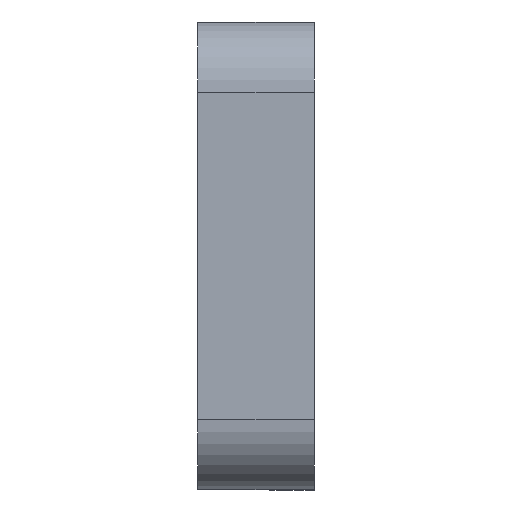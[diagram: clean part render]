
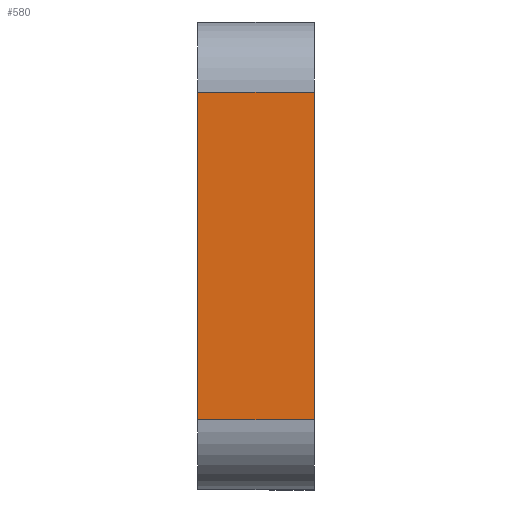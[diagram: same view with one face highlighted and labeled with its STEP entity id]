
A CAD part, front view. The second image highlights one B-rep face of the part: STEP entity #580.
In plain terms, the highlighted planar face has unit normal (0, -1, 0).
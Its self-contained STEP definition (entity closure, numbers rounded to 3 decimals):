
#491=CARTESIAN_POINT('Vertex',(5.,0.,3.)) ;
#494=CARTESIAN_POINT('Line Origine',(2.5,0.,3.)) ;
#498=CARTESIAN_POINT('Vertex',(0.,0.,3.)) ;
#550=CARTESIAN_POINT('Axis2P3D Location',(0.,0.,20.)) ;
#555=CARTESIAN_POINT('Line Origine',(0.,0.,10.)) ;
#559=CARTESIAN_POINT('Vertex',(0.,0.,17.)) ;
#562=CARTESIAN_POINT('Line Origine',(5.,0.,10.)) ;
#566=CARTESIAN_POINT('Vertex',(5.,0.,17.)) ;
#569=CARTESIAN_POINT('Line Origine',(2.5,0.,17.)) ;
#495=DIRECTION('Vector Direction',(1.,0.,0.)) ;
#551=DIRECTION('Axis2P3D Direction',(0.,-1.,0.)) ;
#552=DIRECTION('Axis2P3D XDirection',(0.,0.,-1.)) ;
#556=DIRECTION('Vector Direction',(0.,0.,-1.)) ;
#563=DIRECTION('Vector Direction',(0.,0.,-1.)) ;
#570=DIRECTION('Vector Direction',(1.,0.,0.)) ;
#553=AXIS2_PLACEMENT_3D('Plane Axis2P3D',#550,#551,#552) ;
#575=ORIENTED_EDGE('',*,*,#561,.T.) ;
#576=ORIENTED_EDGE('',*,*,#500,.T.) ;
#577=ORIENTED_EDGE('',*,*,#568,.F.) ;
#578=ORIENTED_EDGE('',*,*,#573,.F.) ;
#496=VECTOR('Line Direction',#495,1.) ;
#557=VECTOR('Line Direction',#556,1.) ;
#564=VECTOR('Line Direction',#563,1.) ;
#571=VECTOR('Line Direction',#570,1.) ;
#580=ADVANCED_FACE('\X2\96F64EF651E04F554F53\X0\',(#579),#554,.T.) ;
#500=EDGE_CURVE('',#499,#492,#497,.T.) ;
#561=EDGE_CURVE('',#560,#499,#558,.T.) ;
#568=EDGE_CURVE('',#567,#492,#565,.T.) ;
#573=EDGE_CURVE('',#560,#567,#572,.T.) ;
#574=EDGE_LOOP('',(#575,#576,#577,#578)) ;
#579=FACE_OUTER_BOUND('',#574,.T.) ;
#497=LINE('Line',#494,#496) ;
#558=LINE('Line',#555,#557) ;
#565=LINE('Line',#562,#564) ;
#572=LINE('Line',#569,#571) ;
#554=PLANE('Plane',#553) ;
#492=VERTEX_POINT('',#491) ;
#499=VERTEX_POINT('',#498) ;
#560=VERTEX_POINT('',#559) ;
#567=VERTEX_POINT('',#566) ;
